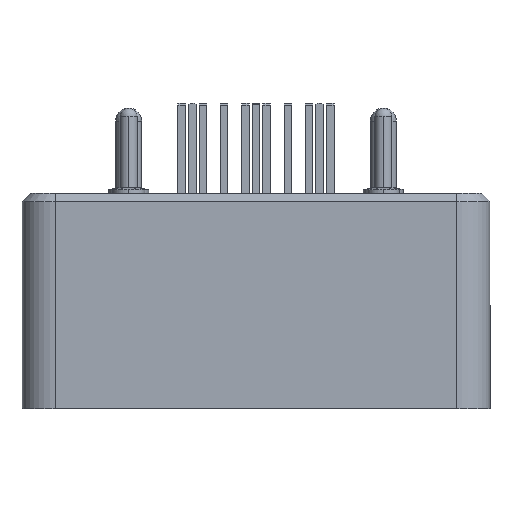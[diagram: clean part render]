
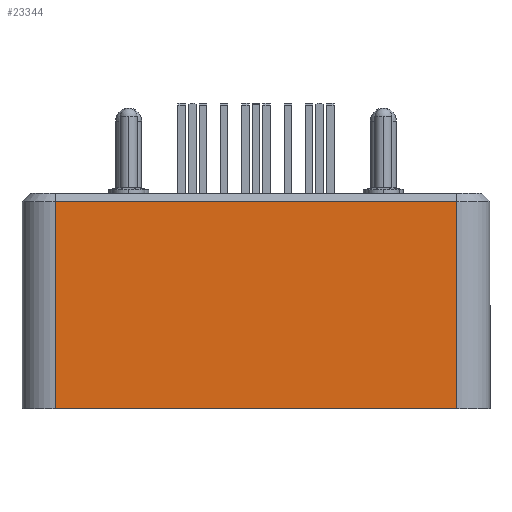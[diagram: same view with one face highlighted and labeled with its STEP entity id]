
A CAD part, left-side view. The second image highlights one B-rep face of the part: STEP entity #23344.
In plain terms, the highlighted planar face has unit normal (-1, 0, 0).
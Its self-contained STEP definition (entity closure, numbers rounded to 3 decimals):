
#1898 = CARTESIAN_POINT ( 'NONE',  ( -1., 25., 2.5 ) ) ;
#3950 = ORIENTED_EDGE ( 'NONE', *, *, #30170, .T. ) ;
#4913 = CARTESIAN_POINT ( 'NONE',  ( -1., 25., 2.5 ) ) ;
#5050 = CARTESIAN_POINT ( 'NONE',  ( -1., 1., 3. ) ) ;
#7016 = EDGE_LOOP ( 'NONE', ( #32681, #23080, #32936, #3950 ) ) ;
#9386 = AXIS2_PLACEMENT_3D ( 'NONE', #36334, #19990, #28620 ) ;
#9630 = VECTOR ( 'NONE', #18759, 1000. ) ;
#9806 = LINE ( 'NONE', #20848, #31727 ) ;
#10479 = CARTESIAN_POINT ( 'NONE',  ( -1., 25., 3. ) ) ;
#11712 = PLANE ( 'NONE',  #9386 ) ;
#11742 = EDGE_CURVE ( 'NONE', #30926, #18042, #35647, .T. ) ;
#13076 = CARTESIAN_POINT ( 'NONE',  ( -1., 25., -9.9 ) ) ;
#13091 = DIRECTION ( 'NONE',  ( 0., 1., 0. ) ) ;
#14076 = CARTESIAN_POINT ( 'NONE',  ( -1., 1., 2.5 ) ) ;
#14720 = VECTOR ( 'NONE', #13091, 1000. ) ;
#15654 = DIRECTION ( 'NONE',  ( 0., -1., 0. ) ) ;
#17037 = FACE_OUTER_BOUND ( 'NONE', #7016, .T. ) ;
#18042 = VERTEX_POINT ( 'NONE', #13076 ) ;
#18759 = DIRECTION ( 'NONE',  ( 0., 0., -1. ) ) ;
#19418 = VERTEX_POINT ( 'NONE', #22754 ) ;
#19990 = DIRECTION ( 'NONE',  ( 1., 0., 0. ) ) ;
#20848 = CARTESIAN_POINT ( 'NONE',  ( -1., 25., -9.9 ) ) ;
#22754 = CARTESIAN_POINT ( 'NONE',  ( -1., 1., -9.9 ) ) ;
#22968 = VECTOR ( 'NONE', #36054, 1000. ) ;
#23080 = ORIENTED_EDGE ( 'NONE', *, *, #32260, .T. ) ;
#23344 = ADVANCED_FACE ( 'NONE', ( #17037 ), #11712, .F. ) ;
#28620 = DIRECTION ( 'NONE',  ( 0., 1., 0. ) ) ;
#30170 = EDGE_CURVE ( 'NONE', #33752, #30926, #32381, .T. ) ;
#30926 = VERTEX_POINT ( 'NONE', #4913 ) ;
#31727 = VECTOR ( 'NONE', #15654, 1000. ) ;
#32260 = EDGE_CURVE ( 'NONE', #18042, #19418, #9806, .T. ) ;
#32315 = EDGE_CURVE ( 'NONE', #33752, #19418, #35871, .T. ) ;
#32381 = LINE ( 'NONE', #1898, #14720 ) ;
#32681 = ORIENTED_EDGE ( 'NONE', *, *, #11742, .T. ) ;
#32936 = ORIENTED_EDGE ( 'NONE', *, *, #32315, .F. ) ;
#33752 = VERTEX_POINT ( 'NONE', #14076 ) ;
#35647 = LINE ( 'NONE', #10479, #9630 ) ;
#35871 = LINE ( 'NONE', #5050, #22968 ) ;
#36054 = DIRECTION ( 'NONE',  ( 0., 0., -1. ) ) ;
#36334 = CARTESIAN_POINT ( 'NONE',  ( -1., 25., 3. ) ) ;
